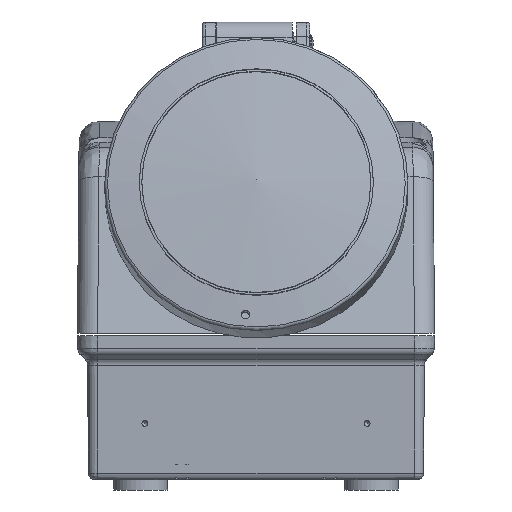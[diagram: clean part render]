
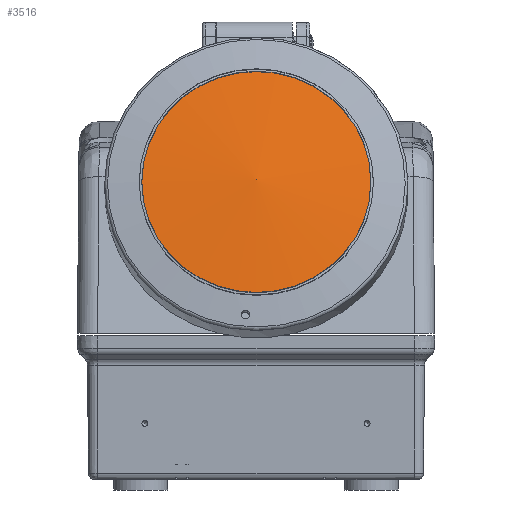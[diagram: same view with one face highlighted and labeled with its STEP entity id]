
A CAD part, front view. The second image highlights one B-rep face of the part: STEP entity #3516.
In plain terms, the highlighted spherical face has radius 250 mm.
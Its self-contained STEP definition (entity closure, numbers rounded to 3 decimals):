
#245=SPHERICAL_SURFACE('',#9682,250.);
#3188=FACE_OUTER_BOUND('',#4341,.T.);
#3516=ADVANCED_FACE('',(#3188),#245,.T.);
#4341=EDGE_LOOP('',(#5946));
#5946=ORIENTED_EDGE('',*,*,#8217,.F.);
#7024=VERTEX_POINT('',#18915);
#8217=EDGE_CURVE('',#7024,#7024,#8681,.T.);
#8681=CIRCLE('',#9681,34.);
#9681=AXIS2_PLACEMENT_3D('',#18914,#11387,#11388);
#9682=AXIS2_PLACEMENT_3D('',#18916,#11389,#11390);
#11387=DIRECTION('',(0.,0.966,-0.259));
#11388=DIRECTION('',(0.,0.259,0.966));
#11389=DIRECTION('',(0.,0.966,-0.259));
#11390=DIRECTION('',(1.,0.,0.));
#18914=CARTESIAN_POINT('',(53.1,-15.777,45.715));
#18915=CARTESIAN_POINT('',(53.1,-6.977,78.557));
#18916=CARTESIAN_POINT('',(53.1,223.461,-18.388));
